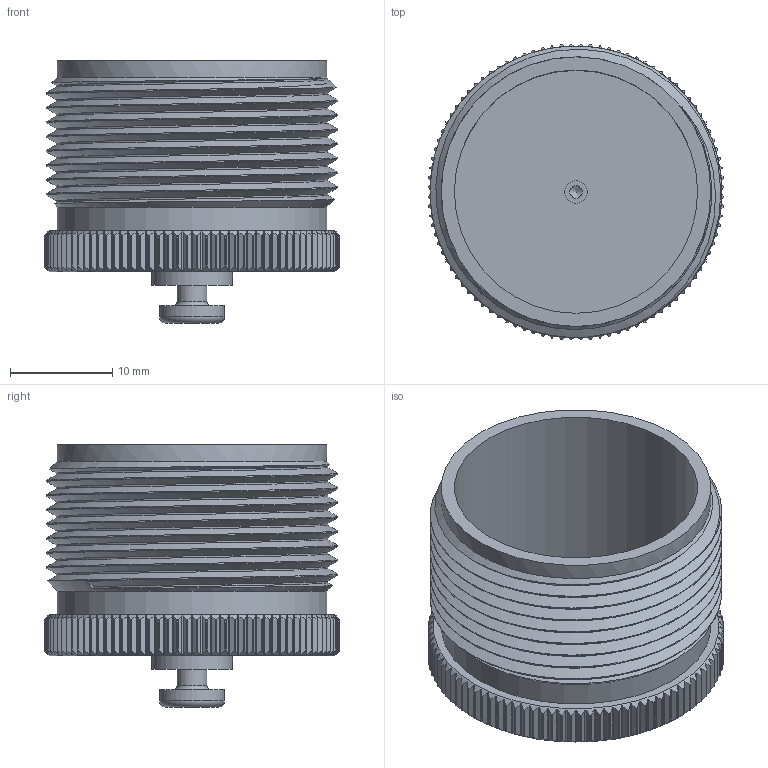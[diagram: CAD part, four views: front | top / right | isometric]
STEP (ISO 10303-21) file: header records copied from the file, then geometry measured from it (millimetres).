
FILE_DESCRIPTION (( 'STEP AP203' ), '1' );
FILE_NAME ('DMS25042-18D (without chain).STEP', '2020-03-09T07:18:08', ( '' ), ( '' ), 'SwSTEP 2.0', 'SolidWorks 2018', '' );
FILE_SCHEMA (( 'CONFIG_CONTROL_DESIGN' ));
Length unit declared in the file: millimetre
Products named in the file (1): DMS25042-18D (without chain)
Bounding box: 28.96 x 28.96 x 25.64 mm (x, y, z)
Volume: 3736.9 mm3; surface area: 5505.9 mm2
Topology: 1 solids, 1 shells, 604 faces, 1784 edges, 1188 vertices
Faces by surface type: cylinder 393, plane 201, cone 5, bspline 3, torus 2
Full cylindrical faces by diameter (mm): 1.2 x1, 2.23 x1, 2.9 x1, 6.35 x1, 7.94 x1, 23.81 x1, 26.38 x2
Entity records: 26642 total; most frequent: CARTESIAN_POINT 12276, ORIENTED_EDGE 3526, DIRECTION 2208, EDGE_CURVE 1763, VERTEX_POINT 1182, B_SPLINE_CURVE_WITH_KNOTS 969, AXIS2_PLACEMENT_3D 816, EDGE_LOOP 625
